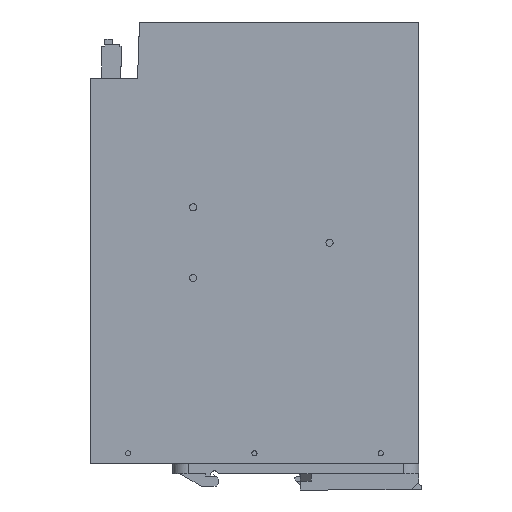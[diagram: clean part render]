
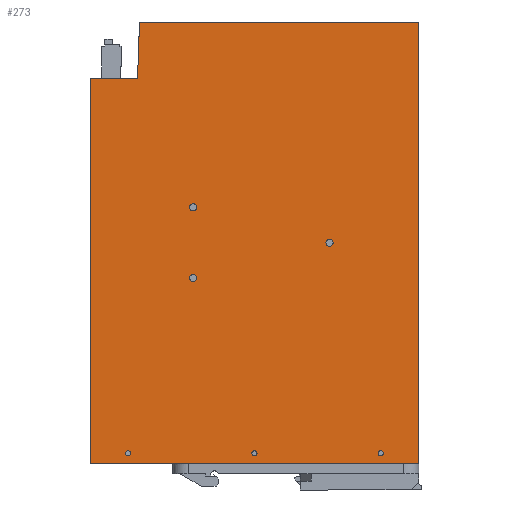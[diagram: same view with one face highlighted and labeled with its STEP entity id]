
A CAD part, left-side view. The second image highlights one B-rep face of the part: STEP entity #273.
In plain terms, the highlighted planar face has unit normal (-1, 0, 0).
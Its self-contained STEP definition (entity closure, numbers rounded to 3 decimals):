
#70=AXIS2_PLACEMENT_3D('Circle Axis2P3D',#68,#69,$) ;
#97=AXIS2_PLACEMENT_3D('Circle Axis2P3D',#95,#96,$) ;
#111=AXIS2_PLACEMENT_3D('Plane Axis2P3D',#108,#109,#110) ;
#181=AXIS2_PLACEMENT_3D('Circle Axis2P3D',#179,#180,$) ;
#190=AXIS2_PLACEMENT_3D('Circle Axis2P3D',#188,#189,$) ;
#199=AXIS2_PLACEMENT_3D('Circle Axis2P3D',#197,#198,$) ;
#208=AXIS2_PLACEMENT_3D('Circle Axis2P3D',#206,#207,$) ;
#217=AXIS2_PLACEMENT_3D('Circle Axis2P3D',#215,#216,$) ;
#226=AXIS2_PLACEMENT_3D('Circle Axis2P3D',#224,#225,$) ;
#239=AXIS2_PLACEMENT_3D('Circle Axis2P3D',#237,#238,$) ;
#248=AXIS2_PLACEMENT_3D('Circle Axis2P3D',#246,#247,$) ;
#257=AXIS2_PLACEMENT_3D('Circle Axis2P3D',#255,#256,$) ;
#266=AXIS2_PLACEMENT_3D('Circle Axis2P3D',#264,#265,$) ;
#68=CARTESIAN_POINT('Axis2P3D Location',(0.,90.5,83.85)) ;
#72=CARTESIAN_POINT('Vertex',(0.,89.249,83.167)) ;
#74=CARTESIAN_POINT('Vertex',(0.,91.751,84.533)) ;
#95=CARTESIAN_POINT('Axis2P3D Location',(0.,90.5,83.85)) ;
#108=CARTESIAN_POINT('Axis2P3D Location',(0.,131.2,185.2)) ;
#113=CARTESIAN_POINT('Line Origine',(0.,112.091,174.)) ;
#117=CARTESIAN_POINT('Vertex',(0.,111.703,185.1)) ;
#119=CARTESIAN_POINT('Vertex',(0.,112.479,162.9)) ;
#122=CARTESIAN_POINT('Line Origine',(0.,121.839,162.9)) ;
#126=CARTESIAN_POINT('Vertex',(0.,131.2,162.9)) ;
#129=CARTESIAN_POINT('Line Origine',(0.,131.2,86.7)) ;
#133=CARTESIAN_POINT('Vertex',(0.,131.2,10.5)) ;
#136=CARTESIAN_POINT('Line Origine',(0.,66.2,10.5)) ;
#140=CARTESIAN_POINT('Vertex',(0.,1.2,10.5)) ;
#143=CARTESIAN_POINT('Line Origine',(0.,1.2,97.85)) ;
#147=CARTESIAN_POINT('Vertex',(0.,1.2,185.2)) ;
#150=CARTESIAN_POINT('Line Origine',(0.,56.45,185.2)) ;
#154=CARTESIAN_POINT('Vertex',(0.,111.7,185.2)) ;
#157=CARTESIAN_POINT('Line Origine',(0.,111.7,185.15)) ;
#161=CARTESIAN_POINT('Vertex',(0.,111.7,185.1)) ;
#164=CARTESIAN_POINT('Line Origine',(0.,111.702,185.1)) ;
#179=CARTESIAN_POINT('Axis2P3D Location',(0.,66.2,14.5)) ;
#183=CARTESIAN_POINT('Vertex',(0.,67.083,14.983)) ;
#185=CARTESIAN_POINT('Vertex',(0.,65.317,14.017)) ;
#188=CARTESIAN_POINT('Axis2P3D Location',(0.,66.2,14.5)) ;
#197=CARTESIAN_POINT('Axis2P3D Location',(0.,36.5,97.85)) ;
#201=CARTESIAN_POINT('Vertex',(0.,37.751,98.533)) ;
#203=CARTESIAN_POINT('Vertex',(0.,35.249,97.167)) ;
#206=CARTESIAN_POINT('Axis2P3D Location',(0.,36.5,97.85)) ;
#215=CARTESIAN_POINT('Axis2P3D Location',(0.,16.2,14.5)) ;
#219=CARTESIAN_POINT('Vertex',(0.,17.083,14.983)) ;
#221=CARTESIAN_POINT('Vertex',(0.,15.317,14.017)) ;
#224=CARTESIAN_POINT('Axis2P3D Location',(0.,16.2,14.5)) ;
#237=CARTESIAN_POINT('Axis2P3D Location',(0.,90.5,111.85)) ;
#241=CARTESIAN_POINT('Vertex',(0.,91.751,112.533)) ;
#243=CARTESIAN_POINT('Vertex',(0.,89.249,111.167)) ;
#246=CARTESIAN_POINT('Axis2P3D Location',(0.,90.5,111.85)) ;
#255=CARTESIAN_POINT('Axis2P3D Location',(0.,116.2,14.5)) ;
#259=CARTESIAN_POINT('Vertex',(0.,115.317,14.017)) ;
#261=CARTESIAN_POINT('Vertex',(0.,117.083,14.983)) ;
#264=CARTESIAN_POINT('Axis2P3D Location',(0.,116.2,14.5)) ;
#69=DIRECTION('Axis2P3D Direction',(1.,0.,-0.)) ;
#96=DIRECTION('Axis2P3D Direction',(1.,0.,-0.)) ;
#109=DIRECTION('Axis2P3D Direction',(-1.,-0.,0.)) ;
#110=DIRECTION('Axis2P3D XDirection',(0.,-1.,0.)) ;
#114=DIRECTION('Vector Direction',(0.,0.035,-0.999)) ;
#123=DIRECTION('Vector Direction',(0.,-1.,0.)) ;
#130=DIRECTION('Vector Direction',(0.,0.,1.)) ;
#137=DIRECTION('Vector Direction',(0.,1.,0.)) ;
#144=DIRECTION('Vector Direction',(0.,0.,-1.)) ;
#151=DIRECTION('Vector Direction',(0.,-1.,0.)) ;
#158=DIRECTION('Vector Direction',(0.,0.,-1.)) ;
#165=DIRECTION('Vector Direction',(0.,-1.,0.)) ;
#180=DIRECTION('Axis2P3D Direction',(-1.,-0.,0.)) ;
#189=DIRECTION('Axis2P3D Direction',(-1.,-0.,0.)) ;
#198=DIRECTION('Axis2P3D Direction',(-1.,-0.,0.)) ;
#207=DIRECTION('Axis2P3D Direction',(-1.,-0.,0.)) ;
#216=DIRECTION('Axis2P3D Direction',(-1.,-0.,0.)) ;
#225=DIRECTION('Axis2P3D Direction',(-1.,-0.,0.)) ;
#238=DIRECTION('Axis2P3D Direction',(-1.,-0.,0.)) ;
#247=DIRECTION('Axis2P3D Direction',(-1.,-0.,0.)) ;
#256=DIRECTION('Axis2P3D Direction',(-1.,-0.,0.)) ;
#265=DIRECTION('Axis2P3D Direction',(-1.,-0.,0.)) ;
#115=VECTOR('Line Direction',#114,1.) ;
#124=VECTOR('Line Direction',#123,1.) ;
#131=VECTOR('Line Direction',#130,1.) ;
#138=VECTOR('Line Direction',#137,1.) ;
#145=VECTOR('Line Direction',#144,1.) ;
#152=VECTOR('Line Direction',#151,1.) ;
#159=VECTOR('Line Direction',#158,1.) ;
#166=VECTOR('Line Direction',#165,1.) ;
#170=ORIENTED_EDGE('',*,*,#121,.T.) ;
#171=ORIENTED_EDGE('',*,*,#128,.T.) ;
#172=ORIENTED_EDGE('',*,*,#135,.F.) ;
#173=ORIENTED_EDGE('',*,*,#142,.T.) ;
#174=ORIENTED_EDGE('',*,*,#149,.F.) ;
#175=ORIENTED_EDGE('',*,*,#156,.F.) ;
#176=ORIENTED_EDGE('',*,*,#163,.T.) ;
#177=ORIENTED_EDGE('',*,*,#168,.F.) ;
#194=ORIENTED_EDGE('',*,*,#187,.F.) ;
#195=ORIENTED_EDGE('',*,*,#192,.F.) ;
#212=ORIENTED_EDGE('',*,*,#205,.F.) ;
#213=ORIENTED_EDGE('',*,*,#210,.F.) ;
#230=ORIENTED_EDGE('',*,*,#223,.F.) ;
#231=ORIENTED_EDGE('',*,*,#228,.F.) ;
#234=ORIENTED_EDGE('',*,*,#99,.F.) ;
#235=ORIENTED_EDGE('',*,*,#76,.F.) ;
#252=ORIENTED_EDGE('',*,*,#245,.F.) ;
#253=ORIENTED_EDGE('',*,*,#250,.F.) ;
#270=ORIENTED_EDGE('',*,*,#263,.F.) ;
#271=ORIENTED_EDGE('',*,*,#268,.F.) ;
#196=FACE_BOUND('',#193,.T.) ;
#214=FACE_BOUND('',#211,.T.) ;
#232=FACE_BOUND('',#229,.T.) ;
#236=FACE_BOUND('',#233,.T.) ;
#254=FACE_BOUND('',#251,.T.) ;
#272=FACE_BOUND('',#269,.T.) ;
#273=ADVANCED_FACE('STROMVERSORGUNG',(#178,#196,#214,#232,#236,#254,#272),#112,.T.) ;
#71=CIRCLE('generated circle',#70,1.425) ;
#98=CIRCLE('generated circle',#97,1.425) ;
#182=CIRCLE('generated circle',#181,1.007) ;
#191=CIRCLE('generated circle',#190,1.007) ;
#200=CIRCLE('generated circle',#199,1.425) ;
#209=CIRCLE('generated circle',#208,1.425) ;
#218=CIRCLE('generated circle',#217,1.007) ;
#227=CIRCLE('generated circle',#226,1.007) ;
#240=CIRCLE('generated circle',#239,1.425) ;
#249=CIRCLE('generated circle',#248,1.425) ;
#258=CIRCLE('generated circle',#257,1.007) ;
#267=CIRCLE('generated circle',#266,1.007) ;
#76=EDGE_CURVE('',#73,#75,#71,.F.) ;
#99=EDGE_CURVE('',#75,#73,#98,.F.) ;
#121=EDGE_CURVE('',#118,#120,#116,.T.) ;
#128=EDGE_CURVE('',#120,#127,#125,.F.) ;
#135=EDGE_CURVE('',#134,#127,#132,.T.) ;
#142=EDGE_CURVE('',#134,#141,#139,.F.) ;
#149=EDGE_CURVE('',#148,#141,#146,.T.) ;
#156=EDGE_CURVE('',#155,#148,#153,.T.) ;
#163=EDGE_CURVE('',#155,#162,#160,.T.) ;
#168=EDGE_CURVE('',#118,#162,#167,.T.) ;
#187=EDGE_CURVE('',#184,#186,#182,.T.) ;
#192=EDGE_CURVE('',#186,#184,#191,.T.) ;
#205=EDGE_CURVE('',#202,#204,#200,.T.) ;
#210=EDGE_CURVE('',#204,#202,#209,.T.) ;
#223=EDGE_CURVE('',#220,#222,#218,.T.) ;
#228=EDGE_CURVE('',#222,#220,#227,.T.) ;
#245=EDGE_CURVE('',#242,#244,#240,.T.) ;
#250=EDGE_CURVE('',#244,#242,#249,.T.) ;
#263=EDGE_CURVE('',#260,#262,#258,.T.) ;
#268=EDGE_CURVE('',#262,#260,#267,.T.) ;
#169=EDGE_LOOP('',(#170,#171,#172,#173,#174,#175,#176,#177)) ;
#193=EDGE_LOOP('',(#194,#195)) ;
#211=EDGE_LOOP('',(#212,#213)) ;
#229=EDGE_LOOP('',(#230,#231)) ;
#233=EDGE_LOOP('',(#234,#235)) ;
#251=EDGE_LOOP('',(#252,#253)) ;
#269=EDGE_LOOP('',(#270,#271)) ;
#178=FACE_OUTER_BOUND('',#169,.T.) ;
#116=LINE('Line',#113,#115) ;
#125=LINE('Line',#122,#124) ;
#132=LINE('Line',#129,#131) ;
#139=LINE('Line',#136,#138) ;
#146=LINE('Line',#143,#145) ;
#153=LINE('Line',#150,#152) ;
#160=LINE('Line',#157,#159) ;
#167=LINE('Line',#164,#166) ;
#112=PLANE('',#111) ;
#73=VERTEX_POINT('',#72) ;
#75=VERTEX_POINT('',#74) ;
#118=VERTEX_POINT('',#117) ;
#120=VERTEX_POINT('',#119) ;
#127=VERTEX_POINT('',#126) ;
#134=VERTEX_POINT('',#133) ;
#141=VERTEX_POINT('',#140) ;
#148=VERTEX_POINT('',#147) ;
#155=VERTEX_POINT('',#154) ;
#162=VERTEX_POINT('',#161) ;
#184=VERTEX_POINT('',#183) ;
#186=VERTEX_POINT('',#185) ;
#202=VERTEX_POINT('',#201) ;
#204=VERTEX_POINT('',#203) ;
#220=VERTEX_POINT('',#219) ;
#222=VERTEX_POINT('',#221) ;
#242=VERTEX_POINT('',#241) ;
#244=VERTEX_POINT('',#243) ;
#260=VERTEX_POINT('',#259) ;
#262=VERTEX_POINT('',#261) ;
